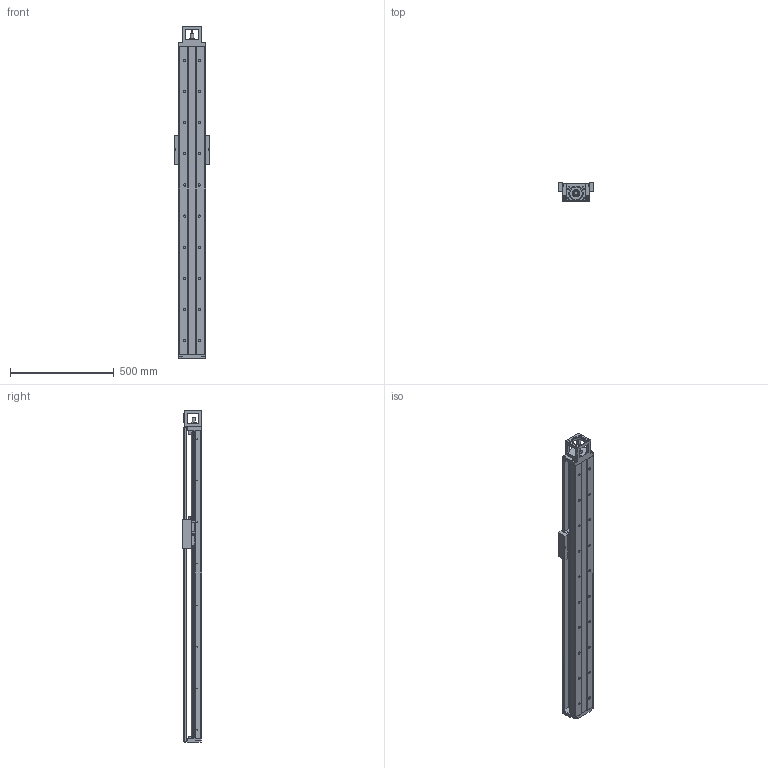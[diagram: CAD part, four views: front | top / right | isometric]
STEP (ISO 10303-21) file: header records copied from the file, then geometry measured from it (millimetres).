
FILE_DESCRIPTION(/* description */ (''),/* implementation_level */ '2;1');
FILE_NAME(/* name */ 'TKK130-1480A1F0C.stp',/* time_stamp */ '2016-12-22T09:52:51+08:00',/* author */ (''),/* organization */ (''),/* preprocessor_version */ 'ST-DEVELOPER v15',/* originating_system */ 'SIEMENS PLM Software NX 8.5',/* authorisation */ '');
FILE_SCHEMA (('AUTOMOTIVE_DESIGN { 1 0 10303 214 3 1 1 1 }'));
Length unit declared in the file: millimetre
Products named in the file (3): 022; 011; TKK130-1480A1F0C
Assembly tree (2 placements, depth 2):
  TKK130-1480A1F0C
    011
    022
Bounding box: 170 x 92 x 1598 mm (x, y, z)
Volume: 6944799.1 mm3; surface area: 1481198.7 mm2
Topology: 2 solids, 43 shells, 1154 faces, 3101 edges, 2027 vertices
Faces by surface type: plane 627, cylinder 355, cone 132, extrusion 33, bspline 6, torus 1
Full cylindrical faces by diameter (mm): 2.1 x16, 2.5 x8, 3.3 x57, 4.5 x20, 5 x23, 6.6 x10, 6.8 x12, 7 x2, 8 x16, 8.5 x4, 9 x8, 11 x28, 12 x4, 15 x1, 16.3 x1, 17 x22, 17.5 x4, 25 x1, 35 x2, 40 x3, 60.03 x1, 70.03 x1
Entity records: 34468 total; most frequent: CARTESIAN_POINT 7476, DIRECTION 5262, ORIENTED_EDGE 4866, EDGE_CURVE 2433, AXIS2_PLACEMENT_3D 1890, VERTEX_POINT 1839, EDGE_LOOP 1647, VECTOR 1482
